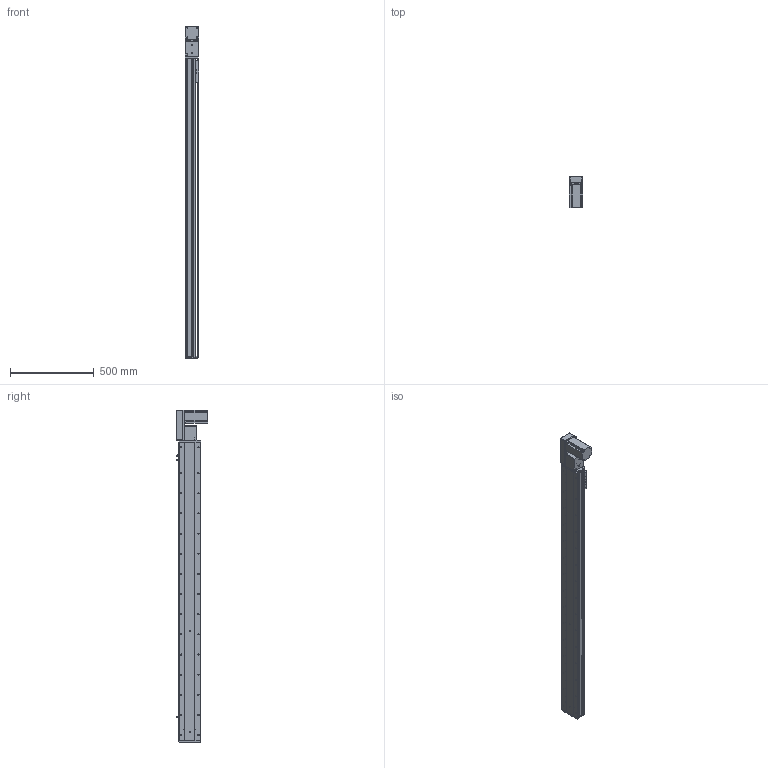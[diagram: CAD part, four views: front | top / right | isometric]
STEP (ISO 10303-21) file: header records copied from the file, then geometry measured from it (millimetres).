
FILE_DESCRIPTION (( 'STEP AP214' ), '1' );
FILE_NAME ('KSD130B-S1550-MRB-CM.STEP', '2019-11-15T07:43:48', ( '微软用户' ), ( '微软中国' ), 'SwSTEP 2.0', 'SolidWorks 2014', '' );
FILE_SCHEMA (( 'AUTOMOTIVE_DESIGN' ));
Length unit declared in the file: millimetre
Products named in the file (12): 台达ECMA－C20807AS伺服电机; 130宽模组保护罩上下左右折-同步带; 130宽模组马达安装板连板左右折同步带; 覜茼え100遵圉猾敕; U倰嫖萇EEㄜSX672; 130宽盖板半封闭同步带-1550行程; 130宽马达安装板同步带右-改镜向_默认<按加工>; 130宽马达安装板同步带半封闭; 130宽同步带安装座半封闭; 130宽端盖同步带半封闭; 130宽底板半封闭同步带-1550行程; KSD130B-S1550-MRB-CM
Assembly tree (13 placements, depth 2):
  KSD130B-S1550-MRB-CM
    130宽底板半封闭同步带-1550行程
    130宽端盖同步带半封闭
    130宽同步带安装座半封闭
    130宽马达安装板同步带半封闭
    130宽马达安装板同步带右-改镜向_默认<按加工>
    130宽盖板半封闭同步带-1550行程
    U倰嫖萇EEㄜSX672  x3
    覜茼え100遵圉猾敕
    130宽模组马达安装板连板左右折同步带
    130宽模组保护罩上下左右折-同步带
    台达ECMA－C20807AS伺服电机
Bounding box: 81 x 184.8 x 1977 mm (x, y, z)
Volume: 6472704.6 mm3; surface area: 1816900.8 mm2
Topology: 14 solids, 14 shells, 1667 faces, 4821 edges, 3061 vertices
Faces by surface type: cylinder 814, plane 642, cone 211
Entity records: 56199 total; most frequent: CARTESIAN_POINT 10734, DIRECTION 8491, ORIENTED_EDGE 8206, EDGE_CURVE 4103, AXIS2_PLACEMENT_3D 3118, VERTEX_POINT 2685, LINE 2255, VECTOR 2255
